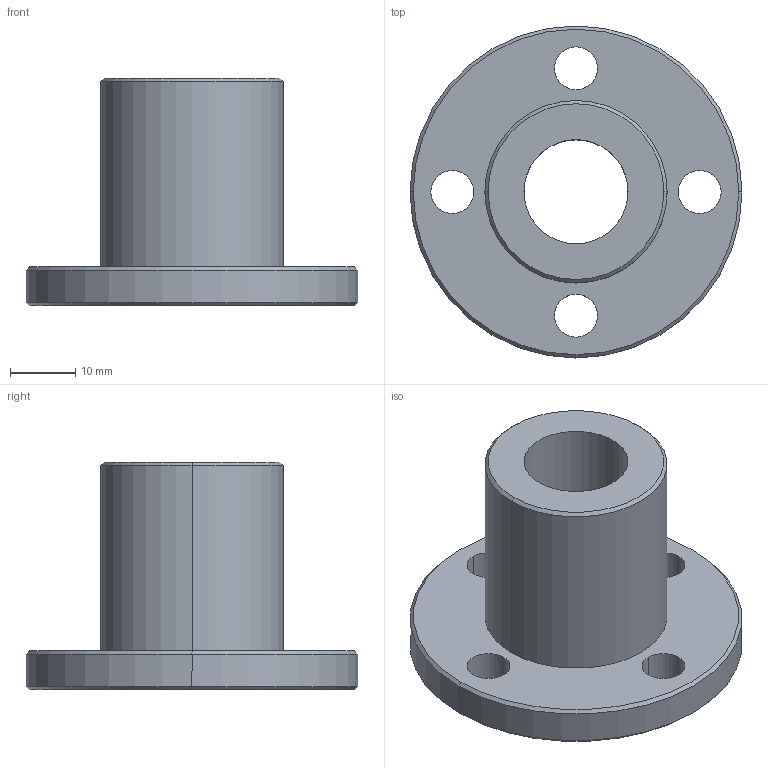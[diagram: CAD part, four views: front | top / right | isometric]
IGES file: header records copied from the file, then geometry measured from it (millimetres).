
Start section: 3D InterOp IGES (Version 21 0 1), Spatial Corp. Copyright (c) 1999-2007.
Global section: file name: TMFON-16R.igs; native system: Spatial Corp.; preprocessor: 3D InterOp GENERIC/IGES 3.0; author: Noname; organization: Noname; date: 20220208.143802; units: millimetre
Bounding box: 51 x 51 x 35 mm (x, y, z)
Surface area: 9058.4 mm2 (no closed solid volume)
Topology: 0 solids, 0 shells, 23 faces, 108 edges, 108 vertices
Faces by surface type: revolution 20, extrusion 3
